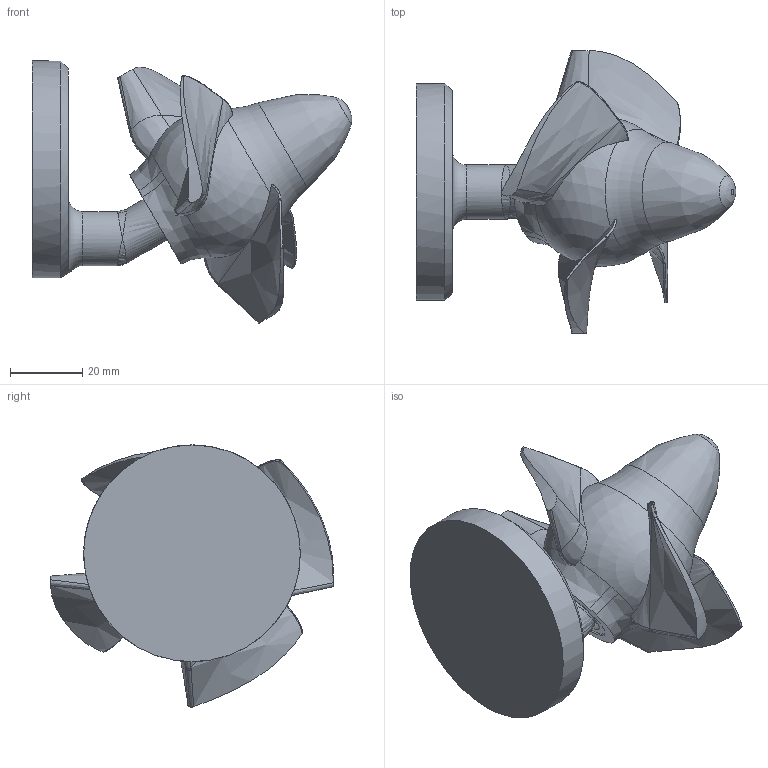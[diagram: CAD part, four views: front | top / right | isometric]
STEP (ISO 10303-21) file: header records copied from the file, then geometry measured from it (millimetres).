
FILE_DESCRIPTION(/* description */ ('','CAx-IF Rec.Pracs.---Representation and Presentation of Product Manufacturing Information (PMI)---4.0---2014-10-13'),/* implementation_level */ '2;1');
FILE_NAME(/* name */ 'Assieme_turbine_idrauliche_kaplan.stp',/* time_stamp */ '2026-05-17T18:31:49+02:00',/* author */ ('R5800u'),/* organization */ (''),/* preprocessor_version */ 'ST-DEVELOPER v20',/* originating_system */ 'Autodesk Inventor 2025',/* authorisation */ '');
FILE_SCHEMA (('AP242_MANAGED_MODEL_BASED_3D_ENGINEERING_MIM_LF { 1 0 10303 442 1 1 4 }'));
Length unit declared in the file: millimetre
Products named in the file (4): Assieme_turbine_idrauliche_kaplan; Turbina_Waldo_b; piedistallo_kaplan; BS 290 SKF - SKF 608-2Z
Assembly tree (3 placements, depth 2):
  Assieme_turbine_idrauliche_kaplan
    Turbina_Waldo_b
    piedistallo_kaplan
    BS 290 SKF - SKF 608-2Z
Bounding box: 88.58 x 78.33 x 72.58 mm (x, y, z)
Volume: 80693.6 mm3; surface area: 26270.8 mm2
Topology: 3 solids, 3 shells, 316 faces, 870 edges, 567 vertices
Faces by surface type: bspline 140, plane 129, torus 19, cylinder 15, sphere 11, cone 2
Full cylindrical faces by diameter (mm): 8 x2, 12.48 x2, 15 x1, 17.52 x2, 18 x1, 22 x1, 22.1 x1, 60 x1
Entity records: 14546 total; most frequent: CARTESIAN_POINT 7069, ORIENTED_EDGE 1706, DIRECTION 1051, EDGE_CURVE 853, VERTEX_POINT 567, LINE 407, VECTOR 407, EDGE_LOOP 354
